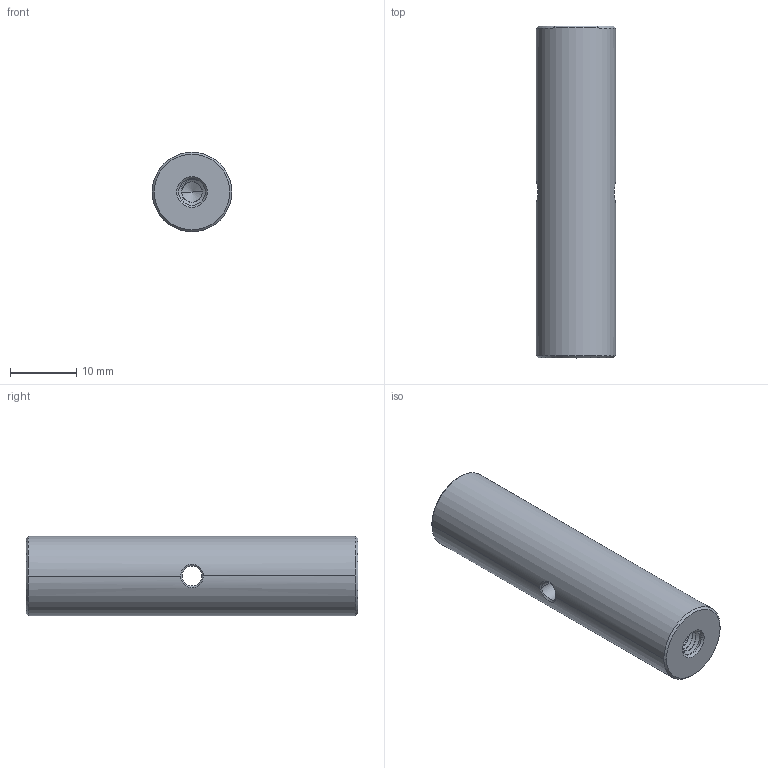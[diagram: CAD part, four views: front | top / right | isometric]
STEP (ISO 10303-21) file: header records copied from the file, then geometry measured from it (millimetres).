
FILE_DESCRIPTION((''),'2;1');
FILE_NAME('PCA5-S2','2020-12-11T',('Administrator'),(''),'CREO PARAMETRIC BY PTC INC, 2015290','CREO PARAMETRIC BY PTC INC, 2015290','');
FILE_SCHEMA(('CONFIG_CONTROL_DESIGN'));
Length unit declared in the file: millimetre
Products named in the file (1): PCA5-S2
Bounding box: 12 x 50 x 12 mm (x, y, z)
Volume: 5409.6 mm3; surface area: 2450.2 mm2
Topology: 1 solids, 1 shells, 80 faces, 216 edges, 134 vertices
Faces by surface type: cylinder 42, bspline 24, cone 12, plane 2
Entity records: 6114 total; most frequent: CARTESIAN_POINT 4382, ORIENTED_EDGE 424, DIRECTION 228, EDGE_CURVE 212, VERTEX_POINT 134, B_SPLINE_CURVE_WITH_KNOTS 116, EDGE_LOOP 82, FACE_OUTER_BOUND 80
